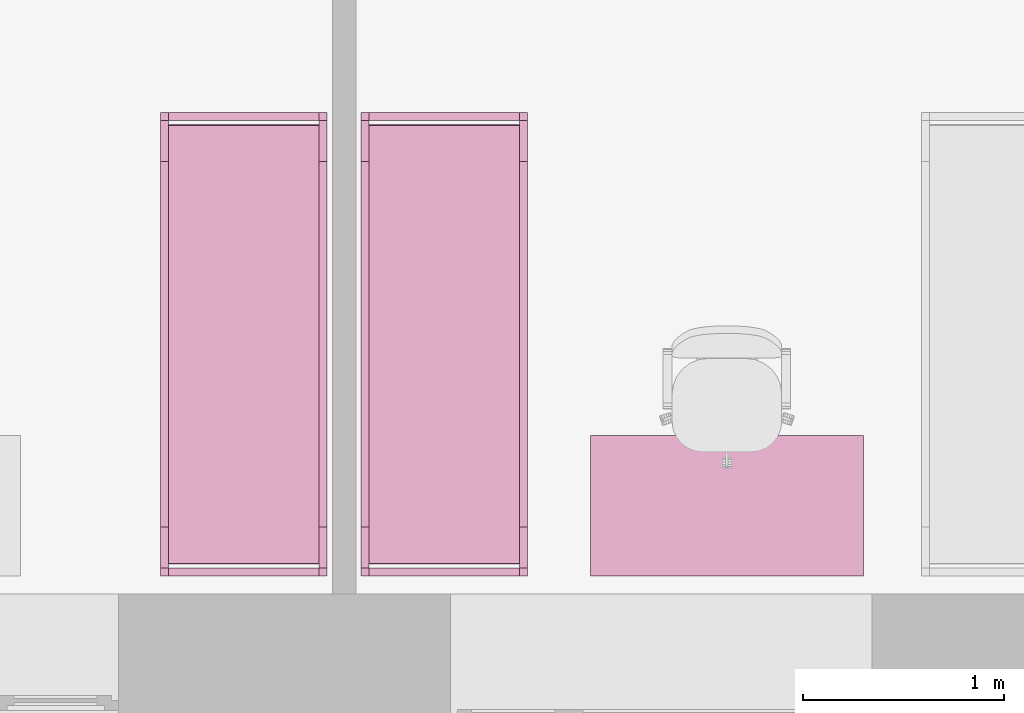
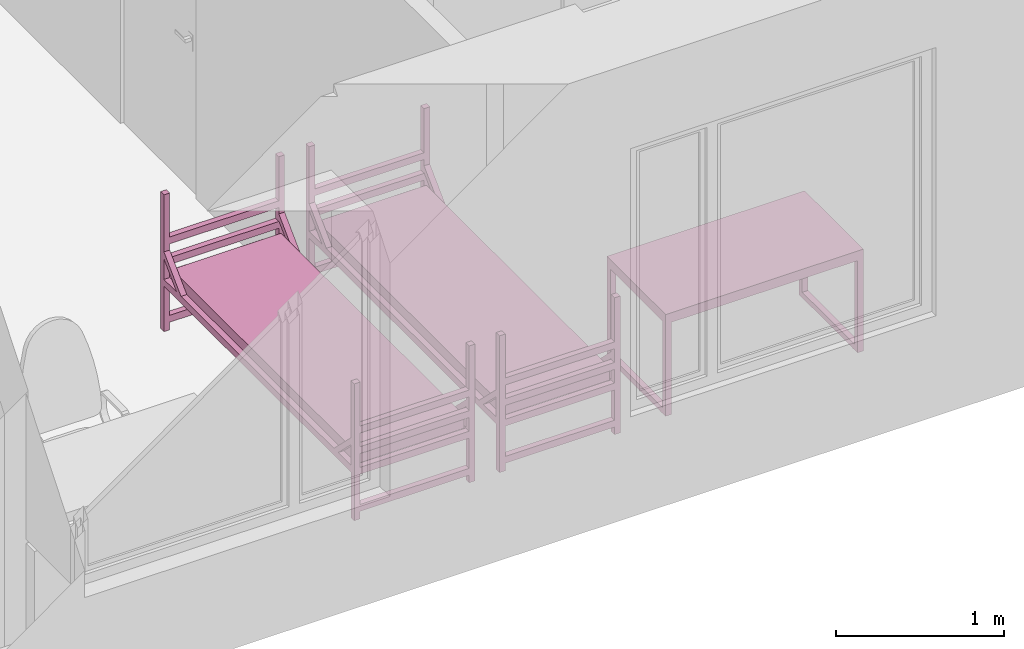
# One storey, part 33 of 48: 3 furnishings.
"""IFC2X3 building model written with IfcOpenShell, lengths in millimetres."""

from ifc_helpers import new_model, entity, si_unit, converted_unit, derived_unit, direction, frame, frame_2d, origin, origin_2d_with_axis, place, context, subcontext, project, spatial, polyline, circle_curve, parameter, trimmed, segment, composite_curve, rectangle, outline, extrude, faceted_brep, source, transform, mapped, material, material_list, type_object, type_shapes, element, save


model = new_model("IFC2X3")

# Units and contexts
model_context = context("Model", 3, precision=0.01, world=origin(), true_north=direction((6.12303176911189e-17, 1.0)))
body_context = subcontext(model_context, "Body", "Model", "MODEL_VIEW")
ifc_project = project(units=[si_unit("LENGTHUNIT", "METRE", prefix="MILLI"), si_unit("AREAUNIT", "SQUARE_METRE"), si_unit("VOLUMEUNIT", "CUBIC_METRE"), converted_unit("PLANEANGLEUNIT", "DEGREE", entity("IfcRatioMeasure", 0.0174532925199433), si_unit("PLANEANGLEUNIT", "RADIAN"), dimensions=[0, 0, 0, 0, 0, 0, 0]), si_unit("MASSUNIT", "GRAM", prefix="KILO"), derived_unit("MASSDENSITYUNIT", [(si_unit("MASSUNIT", "GRAM", prefix="KILO"), 1), (si_unit("LENGTHUNIT", "METRE"), -3)]), si_unit("TIMEUNIT", "SECOND"), si_unit("FREQUENCYUNIT", "HERTZ"), si_unit("THERMODYNAMICTEMPERATUREUNIT", "DEGREE_CELSIUS"), derived_unit("THERMALTRANSMITTANCEUNIT", [(si_unit("MASSUNIT", "GRAM", prefix="KILO"), 1), (si_unit("THERMODYNAMICTEMPERATUREUNIT", "KELVIN"), -1), (si_unit("TIMEUNIT", "SECOND"), -3)]), derived_unit("VOLUMETRICFLOWRATEUNIT", [(si_unit("LENGTHUNIT", "METRE"), 3), (si_unit("TIMEUNIT", "SECOND"), -1)]), si_unit("ELECTRICCURRENTUNIT", "AMPERE"), si_unit("ELECTRICVOLTAGEUNIT", "VOLT"), si_unit("POWERUNIT", "WATT"), si_unit("FORCEUNIT", "NEWTON", prefix="KILO"), si_unit("ILLUMINANCEUNIT", "LUX"), si_unit("LUMINOUSFLUXUNIT", "LUMEN"), si_unit("LUMINOUSINTENSITYUNIT", "CANDELA"), derived_unit("USERDEFINED", [(si_unit("MASSUNIT", "GRAM", prefix="KILO"), -1), (si_unit("LENGTHUNIT", "METRE"), -2), (si_unit("TIMEUNIT", "SECOND"), 3), (si_unit("LUMINOUSFLUXUNIT", "LUMEN"), 1)]), derived_unit("LINEARVELOCITYUNIT", [(si_unit("LENGTHUNIT", "METRE"), 1), (si_unit("TIMEUNIT", "SECOND"), -1)]), si_unit("PRESSUREUNIT", "PASCAL"), derived_unit("USERDEFINED", [(si_unit("LENGTHUNIT", "METRE"), -2), (si_unit("MASSUNIT", "GRAM", prefix="KILO"), 1), (si_unit("TIMEUNIT", "SECOND"), -2)]), derived_unit("LINEARFORCEUNIT", [(si_unit("MASSUNIT", "GRAM", prefix="KILO"), 1), (si_unit("LENGTHUNIT", "METRE"), 1), (si_unit("TIMEUNIT", "SECOND"), -2), (si_unit("LENGTHUNIT", "METRE"), -1)]), derived_unit("PLANARFORCEUNIT", [(si_unit("MASSUNIT", "GRAM", prefix="KILO"), 1), (si_unit("LENGTHUNIT", "METRE"), 1), (si_unit("TIMEUNIT", "SECOND"), -2), (si_unit("LENGTHUNIT", "METRE"), -2)])], contexts=[model_context])

# Site, building, storey, space
site_placement = place(None, origin())
site = spatial("IfcSite", under=ifc_project, at=site_placement, Name="Default", CompositionType="ELEMENT")
building_placement = place(site_placement, origin())
building = spatial("IfcBuilding", under=site, at=building_placement, Name="SMA ARH", CompositionType="ELEMENT")
storey_placement = place(building_placement, frame((0.0, 0.0, 3300.0)))
storey = spatial("IfcBuildingStorey", under=building, at=storey_placement, Name="2 Korrus", CompositionType="ELEMENT", Elevation=3299.99999999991)
space_1_placement = place(storey_placement, origin())
space_1 = spatial("IfcSpace", under=storey, at=space_1_placement, Name="2-9", CompositionType="ELEMENT", InteriorOrExteriorSpace="INTERNAL")

# Furnishing
ifc_material_1 = material(Name="Madrats")
furniture_type_1 = type_object("IfcFurnitureType", Name="Kasarmu voodi ühekordne 2308x830:Kasarmu voodi ühekordne 2308x830", material=ifc_material_1)
shared_shape_1 = source(origin(), body_context, "Body", "SweptSolid", [
    extrude(rectangle(XDim=39.9999999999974, YDim=750.000000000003, at=frame_2d((-1.35003119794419e-13, -2.8421709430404e-14), x_axis=(1.0, 0.0))), frame((1.68638457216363, -1226.7969571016, 55.0), z_axis=(0.0, 0.0, 1.0), x_axis=(0.0, -1.0, 0.0)), (0.0, 0.0, 1.0), 49.9999999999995),
    extrude(rectangle(XDim=39.9999999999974, YDim=750.000000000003, at=frame_2d((-1.35003119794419e-13, -2.8421709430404e-14), x_axis=(1.0, 0.0))), frame((1.68638457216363, -1226.7969571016, 325.0), z_axis=(0.0, 0.0, 1.0), x_axis=(0.0, -1.0, 0.0)), (0.0, 0.0, 1.0), 49.9999999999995),
    extrude(rectangle(XDim=39.9999999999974, YDim=750.000000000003, at=frame_2d((-1.35003119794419e-13, -2.8421709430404e-14), x_axis=(1.0, 0.0))), frame((1.68638457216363, -1226.7969571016, 475.0), z_axis=(0.0, 0.0, 1.0), x_axis=(0.0, -1.0, 0.0)), (0.0, 0.0, 1.0), 49.9999999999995),
    extrude(rectangle(XDim=39.9999999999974, YDim=750.000000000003, at=frame_2d((-1.35003119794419e-13, -2.8421709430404e-14), x_axis=(1.0, 0.0))), frame((1.68638457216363, -1226.7969571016, 625.0), z_axis=(0.0, 0.0, 1.0), x_axis=(0.0, -1.0, 0.0)), (0.0, 0.0, 1.0), 50.0000000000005),
    extrude(rectangle(XDim=39.9999999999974, YDim=750.000000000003, at=frame_2d((1.35003119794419e-13, -2.8421709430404e-14), x_axis=(1.0, 0.0))), frame((1.68638457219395, 1041.2030428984, 55.0), z_axis=(0.0, 0.0, 1.0), x_axis=(0.0, -1.0, 0.0)), (0.0, 0.0, 1.0), 50.0000000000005),
    extrude(rectangle(XDim=39.9999999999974, YDim=750.000000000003, at=frame_2d((1.35003119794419e-13, -2.8421709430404e-14), x_axis=(1.0, 0.0))), frame((1.68638457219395, 1041.2030428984, 325.0), z_axis=(0.0, 0.0, 1.0), x_axis=(0.0, -1.0, 0.0)), (0.0, 0.0, 1.0), 50.0000000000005),
    extrude(rectangle(XDim=39.9999999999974, YDim=750.000000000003, at=frame_2d((1.35003119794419e-13, -2.8421709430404e-14), x_axis=(1.0, 0.0))), frame((1.68638457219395, 1041.2030428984, 475.0), z_axis=(0.0, 0.0, 1.0), x_axis=(0.0, -1.0, 0.0)), (0.0, 0.0, 1.0), 50.0000000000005),
    extrude(rectangle(XDim=39.9999999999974, YDim=750.000000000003, at=frame_2d((1.35003119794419e-13, -2.8421709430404e-14), x_axis=(1.0, 0.0))), frame((1.68638457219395, 1041.2030428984, 625.0), z_axis=(0.0, 0.0, 1.0), x_axis=(0.0, -1.0, 0.0)), (0.0, 0.0, 1.0), 49.9999999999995),
    extrude(outline(composite_curve([segment(trimmed(circle_curve(frame_2d((1085.0, -40.0), x_axis=(1.0, 0.0)), 10.0), [parameter(270.0)], [parameter(0.0)], True, "PARAMETER"), True, "CONTINUOUS"), segment(polyline([(1095.0, -40.0), (1095.0, 40.0)]), True, "CONTINUOUS"), segment(trimmed(circle_curve(frame_2d((1085.0, 40.0), x_axis=(1.0, 0.0)), 10.0), [parameter(0.0)], [parameter(90.0000000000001)], True, "PARAMETER"), True, "CONTINUOUS"), segment(polyline([(1085.0, 50.0), (-1085.0, 50.0)]), True, "CONTINUOUS"), segment(trimmed(circle_curve(frame_2d((-1085.0, 40.0), x_axis=(1.0, 0.0)), 10.0), [parameter(90.0000000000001)], [parameter(180.0)], True, "PARAMETER"), True, "CONTINUOUS"), segment(polyline([(-1095.0, 40.0), (-1095.0, -40.0)]), True, "CONTINUOUS"), segment(trimmed(circle_curve(frame_2d((-1085.0, -40.0), x_axis=(1.0, 0.0)), 10.0), [parameter(180.0)], [parameter(270.0)], True, "PARAMETER"), True, "CONTINUOUS"), segment(polyline([(-1085.0, -50.0), (1085.0, -50.0)]), True, "CONTINUOUS")], self_intersect=False)), frame((-373.313615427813, -92.7969571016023, 405.0), z_axis=(1.0, 0.0, 0.0), x_axis=(0.0, -1.0, 0.0)), (0.0, 0.0, 1.0), 750.000000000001),
    extrude(outline(polyline([(-1114.0, -100.0), (1114.0, -100.0), (1114.0, -50.0), (961.59199141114, -50.0), (1114.0, 100.0), (1114.0, 150.0), (910.789321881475, -50.0), (-910.789321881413, -50.0), (-1114.0, 150.0), (-1114.0, 100.0), (-961.591991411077, -50.0), (-1114.0, -50.0), (-1114.0, -100.0)])), frame((-413.313615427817, -92.7969571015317, 430.0), z_axis=(1.0, 0.0, 0.0), x_axis=(0.0, 1.0, 0.0)), (0.0, 0.0, 1.0), 39.9999999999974),
    extrude(outline(polyline([(-1114.0, -100.0), (1114.0, -100.0), (1114.0, -50.0), (961.591991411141, -50.0), (1114.0, 100.0), (1114.0, 150.0), (910.789321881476, -50.0), (-910.789321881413, -50.0), (-1114.0, 150.0), (-1114.0, 100.0), (-961.591991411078, -50.0), (-1114.0, -50.0), (-1114.0, -100.0)])), frame((376.686384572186, -92.796957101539, 430.0), z_axis=(1.0, 0.0, 0.0), x_axis=(0.0, 1.0, 0.0)), (0.0, 0.0, 1.0), 39.9999999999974),
    extrude(rectangle(XDim=39.9999999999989, YDim=39.9999999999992, at=frame_2d((-6.75015598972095e-14, 0.0), x_axis=(1.0, 0.0))), frame((396.686384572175, -1226.79695710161, 0.0), z_axis=(0.0, 0.0, 1.0), x_axis=(0.0, 1.0, 0.0)), (0.0, 0.0, 1.0), 995.0),
    extrude(rectangle(XDim=39.9999999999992, YDim=39.9999999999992, at=frame_2d((-1.35003119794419e-13, 0.0), x_axis=(1.0, 0.0))), frame((396.686384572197, 1041.20304289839, 0.0), z_axis=(0.0, 0.0, 1.0), x_axis=(0.0, 1.0, 0.0)), (0.0, 0.0, 1.0), 995.0),
    extrude(rectangle(XDim=40.0000000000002, YDim=39.9999999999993, at=frame_2d((-1.35003119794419e-13, 0.0), x_axis=(1.0, 0.0))), frame((-393.313615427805, 1041.2030428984, 0.0), z_axis=(0.0, 0.0, 1.0), x_axis=(0.0, 1.0, 0.0)), (0.0, 0.0, 1.0), 995.0),
    extrude(rectangle(XDim=39.9999999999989, YDim=39.9999999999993, at=frame_2d((-6.75015598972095e-14, 0.0), x_axis=(1.0, 0.0))), frame((-393.313615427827, -1226.7969571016, 0.0), z_axis=(0.0, 0.0, 1.0), x_axis=(0.0, 1.0, 0.0)), (0.0, 0.0, 1.0), 995.0),
])
type_shapes(furniture_type_1, [shared_shape_1])
furnishing_1_placement = place(space_1_placement, frame((19032.1863845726, 1151.20304289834, 0.0), z_axis=(0.0, 0.0, 1.0), x_axis=(-1.0, 0.0, 0.0)))
element("IfcFurnishingElement", 1, at=furnishing_1_placement, inside=space_1, type_object=furniture_type_1, material=ifc_material_1, Name="Kasarmu voodi ühekordne 2308x830:Kasarmu voodi ühekordne 2308x830", ObjectType="Kasarmu voodi ühekordne 2308x830:Kasarmu voodi ühekordne 2308x830", context=body_context, shape_type="MappedRepresentation", body=[
    mapped(shared_shape_1, transform((0.0, 0.0, 0.0), scale=1.0)),
])

# Space
space_2_placement = place(storey_placement, origin())
space_2 = spatial("IfcSpace", under=storey, at=space_2_placement, Name="2-8", CompositionType="ELEMENT", InteriorOrExteriorSpace="INTERNAL")

# Furnishings
ifc_material_2 = material(Name="<Unnamed>")
ifc_material_list = material_list([ifc_material_2, ifc_material_2])
furniture_type_2 = type_object("IfcFurnitureType", Name="kirjutuslaud 1360x700mm:kirjutuslaud 1360x700mm", material=ifc_material_list)
shared_shape_2 = source(origin(), body_context, "Body", "Brep", [
    faceted_brep([(680.0, -350.0, 720.0), (680.0, 350.0, 720.0), (680.0, 350.0, 750.0), (680.0, -350.0, 750.0), (-680.0, -350.0, 720.0), (-680.0, -350.0, 750.0), (-680.0, 350.0, 750.0), (-680.0, 350.0, 720.0)], [[[0, 1, 2, 3]], [[4, 5, 6, 7]], [[1, 0, 4, 7]], [[2, 1, 7, 6]], [[3, 2, 6, 5]], [[0, 3, 5, 4]]]),
    faceted_brep([(-640.0, -310.0, 680.0), (-640.0, 310.0, 680.0), (-640.0, 310.0, 720.0), (-640.0, -310.0, 720.0), (-680.0, -350.0, 720.0), (-680.0, 350.0, 720.0), (-680.0, 350.0, 10.0), (-680.0, -350.0, 10.0), (-680.0, 310.0, 680.0), (-680.0, -310.0, 680.0), (-680.0, -310.0, 50.0), (-680.0, 310.0, 50.0), (-640.0, -350.0, 10.0), (-640.0, -350.0, 680.0), (640.0, -350.0, 680.0), (640.0, -350.0, 10.0), (680.0, -350.0, 10.0), (680.0, -350.0, 720.0), (-640.0, 350.0, 10.0), (680.0, 350.0, 720.0), (680.0, 350.0, 10.0), (640.0, 350.0, 10.0), (640.0, 350.0, 680.0), (-640.0, 350.0, 680.0), (640.0, 310.0, 720.0), (640.0, -310.0, 720.0), (-640.0, 310.0, 50.0), (-640.0, -310.0, 50.0), (640.0, -310.0, 680.0), (640.0, 310.0, 680.0), (680.0, 310.0, 680.0), (680.0, 310.0, 50.0), (680.0, -310.0, 50.0), (680.0, -310.0, 680.0), (640.0, -310.0, 50.0), (640.0, 310.0, 50.0)], [[[0, 1, 2, 3]], [[4, 5, 6, 7], [8, 9, 10, 11]], [[4, 7, 12, 13, 14, 15, 16, 17]], [[18, 12, 7, 6]], [[6, 5, 19, 20, 21, 22, 23, 18]], [[19, 5, 4, 17], [2, 24, 25, 3]], [[26, 1, 8, 11]], [[27, 26, 11, 10]], [[0, 27, 10, 9]], [[1, 0, 9, 8]], [[14, 13, 0, 28]], [[24, 2, 1, 29]], [[3, 25, 28, 0]], [[17, 16, 20, 19], [30, 31, 32, 33]], [[21, 15, 14, 28, 34, 35, 29, 22]], [[20, 16, 15, 21]], [[31, 30, 29, 35]], [[32, 31, 35, 34]], [[33, 32, 34, 28]], [[30, 33, 28, 29]], [[29, 28, 25, 24]], [[29, 1, 23, 22]], [[12, 18, 23, 1, 26, 27, 0, 13]]]),
    faceted_brep([(-663.729456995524, -270.466136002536, 0.0), (-659.847171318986, -269.955023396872, 0.0), (-655.964885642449, -270.466136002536, 0.0), (-652.347171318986, -271.964642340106, 0.0), (-649.240569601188, -274.348421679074, 0.0), (-646.85679026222, -277.455023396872, 0.0), (-645.35828392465, -281.072737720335, 0.0), (-644.847171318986, -284.955023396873, 0.0), (-645.35828392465, -288.83730907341, 0.0), (-646.85679026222, -292.455023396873, 0.0), (-649.240569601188, -295.561625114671, 0.0), (-652.347171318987, -297.945404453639, 0.0), (-655.964885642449, -299.443910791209, 0.0), (-659.847171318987, -299.955023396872, 0.0), (-663.729456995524, -299.443910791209, 0.0), (-667.347171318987, -297.945404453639, 0.0), (-670.453773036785, -295.561625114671, 0.0), (-672.837552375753, -292.455023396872, 0.0), (-674.336058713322, -288.83730907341, 0.0), (-674.847171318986, -284.955023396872, 0.0), (-674.336058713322, -281.072737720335, 0.0), (-672.837552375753, -277.455023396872, 0.0), (-670.453773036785, -274.348421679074, 0.0), (-667.347171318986, -271.964642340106, 0.0), (-655.964885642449, -299.443910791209, 10.0), (-652.347171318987, -297.945404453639, 10.0), (-649.240569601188, -295.561625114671, 10.0), (-646.85679026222, -292.455023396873, 10.0), (-645.35828392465, -288.83730907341, 10.0), (-644.847171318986, -284.955023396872, 10.0), (-645.35828392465, -281.072737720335, 10.0), (-646.85679026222, -277.455023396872, 10.0), (-649.240569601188, -274.348421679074, 10.0), (-652.347171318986, -271.964642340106, 10.0), (-655.964885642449, -270.466136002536, 10.0), (-659.847171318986, -269.955023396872, 10.0), (-663.729456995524, -270.466136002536, 10.0), (-667.347171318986, -271.964642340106, 10.0), (-670.453773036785, -274.348421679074, 10.0), (-672.837552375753, -277.455023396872, 10.0), (-674.336058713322, -281.072737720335, 10.0), (-674.847171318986, -284.955023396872, 10.0), (-674.336058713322, -288.83730907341, 10.0), (-672.837552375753, -292.455023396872, 10.0), (-670.453773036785, -295.561625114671, 10.0), (-667.347171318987, -297.945404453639, 10.0), (-663.729456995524, -299.443910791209, 10.0), (-659.847171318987, -299.955023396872, 10.0)], [[[0, 1, 2, 3, 4, 5, 6, 7, 8, 9, 10, 11, 12, 13, 14, 15, 16, 17, 18, 19, 20, 21, 22, 23]], [[24, 25, 26, 27, 28, 29, 30, 31, 32, 33, 34, 35, 36, 37, 38, 39, 40, 41, 42, 43, 44, 45, 46, 47]], [[18, 42, 41, 19]], [[17, 43, 42, 18]], [[45, 44, 16, 15]], [[17, 16, 44, 43]], [[46, 45, 15, 14]], [[47, 46, 14, 13]], [[12, 24, 47, 13]], [[11, 25, 24, 12]], [[27, 26, 10, 9]], [[11, 10, 26, 25]], [[28, 27, 9, 8]], [[29, 28, 8, 7]], [[6, 30, 29, 7]], [[5, 31, 30, 6]], [[33, 32, 4, 3]], [[5, 4, 32, 31]], [[34, 33, 3, 2]], [[35, 34, 2, 1]], [[0, 36, 35, 1]], [[23, 37, 36, 0]], [[39, 38, 22, 21]], [[23, 22, 38, 37]], [[40, 39, 21, 20]], [[41, 40, 20, 19]]]),
    faceted_brep([(-655.964885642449, 270.466136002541, 10.0), (-652.347171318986, 271.964642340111, 10.0), (-649.240569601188, 274.348421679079, 10.0), (-646.85679026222, 277.455023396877, 10.0), (-645.35828392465, 281.07273772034, 10.0), (-644.847171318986, 284.955023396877, 10.0), (-645.35828392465, 288.837309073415, 10.0), (-646.85679026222, 292.455023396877, 10.0), (-649.240569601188, 295.561625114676, 10.0), (-652.347171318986, 297.945404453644, 10.0), (-655.964885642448, 299.443910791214, 10.0), (-659.847171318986, 299.955023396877, 10.0), (-663.729456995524, 299.443910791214, 10.0), (-667.347171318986, 297.945404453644, 10.0), (-670.453773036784, 295.561625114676, 10.0), (-672.837552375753, 292.455023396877, 10.0), (-674.336058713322, 288.837309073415, 10.0), (-674.847171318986, 284.955023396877, 10.0), (-674.336058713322, 281.07273772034, 10.0), (-672.837552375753, 277.455023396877, 10.0), (-670.453773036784, 274.348421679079, 10.0), (-667.347171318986, 271.964642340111, 10.0), (-663.729456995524, 270.466136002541, 10.0), (-659.847171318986, 269.955023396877, 10.0), (-655.964885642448, 299.443910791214, 0.0), (-652.347171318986, 297.945404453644, 0.0), (-649.240569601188, 295.561625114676, 0.0), (-646.85679026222, 292.455023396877, 0.0), (-645.35828392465, 288.837309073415, 0.0), (-644.847171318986, 284.955023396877, 0.0), (-645.35828392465, 281.07273772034, 0.0), (-646.85679026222, 277.455023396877, 0.0), (-649.240569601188, 274.348421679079, 0.0), (-652.347171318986, 271.964642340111, 0.0), (-655.964885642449, 270.466136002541, 0.0), (-659.847171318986, 269.955023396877, 0.0), (-663.729456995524, 270.466136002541, 0.0), (-667.347171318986, 271.964642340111, 0.0), (-670.453773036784, 274.348421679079, 0.0), (-672.837552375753, 277.455023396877, 0.0), (-674.336058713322, 281.07273772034, 0.0), (-674.847171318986, 284.955023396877, 0.0), (-674.336058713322, 288.837309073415, 0.0), (-672.837552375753, 292.455023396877, 0.0), (-670.453773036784, 295.561625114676, 0.0), (-667.347171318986, 297.945404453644, 0.0), (-663.729456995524, 299.443910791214, 0.0), (-659.847171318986, 299.955023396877, 0.0)], [[[0, 1, 2, 3, 4, 5, 6, 7, 8, 9, 10, 11, 12, 13, 14, 15, 16, 17, 18, 19, 20, 21, 22, 23]], [[24, 25, 26, 27, 28, 29, 30, 31, 32, 33, 34, 35, 36, 37, 38, 39, 40, 41, 42, 43, 44, 45, 46, 47]], [[40, 18, 17, 41]], [[39, 19, 18, 40]], [[21, 20, 38, 37]], [[39, 38, 20, 19]], [[22, 21, 37, 36]], [[23, 22, 36, 35]], [[34, 0, 23, 35]], [[33, 1, 0, 34]], [[3, 2, 32, 31]], [[33, 32, 2, 1]], [[4, 3, 31, 30]], [[5, 4, 30, 29]], [[28, 6, 5, 29]], [[27, 7, 6, 28]], [[9, 8, 26, 25]], [[27, 26, 8, 7]], [[10, 9, 25, 24]], [[11, 10, 24, 47]], [[46, 12, 11, 47]], [[45, 13, 12, 46]], [[15, 14, 44, 43]], [[45, 44, 14, 13]], [[16, 15, 43, 42]], [[17, 16, 42, 41]]]),
    faceted_brep([(656.270543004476, -270.466136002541, 0.0), (660.152828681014, -269.955023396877, 0.0), (664.035114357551, -270.466136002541, 0.0), (667.652828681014, -271.96464234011, 0.0), (670.759430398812, -274.348421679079, 0.0), (673.14320973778, -277.455023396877, 0.0), (674.64171607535, -281.072737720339, 0.0), (675.152828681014, -284.955023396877, 0.0), (674.64171607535, -288.837309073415, 0.0), (673.14320973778, -292.455023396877, 0.0), (670.759430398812, -295.561625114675, 0.0), (667.652828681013, -297.945404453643, 0.0), (664.035114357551, -299.443910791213, 0.0), (660.152828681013, -299.955023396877, 0.0), (656.270543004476, -299.443910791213, 0.0), (652.652828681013, -297.945404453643, 0.0), (649.546226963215, -295.561625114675, 0.0), (647.162447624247, -292.455023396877, 0.0), (645.663941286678, -288.837309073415, 0.0), (645.152828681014, -284.955023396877, 0.0), (645.663941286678, -281.072737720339, 0.0), (647.162447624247, -277.455023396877, 0.0), (649.546226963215, -274.348421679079, 0.0), (652.652828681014, -271.96464234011, 0.0), (664.035114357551, -299.443910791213, 10.0), (667.652828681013, -297.945404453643, 10.0), (670.759430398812, -295.561625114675, 10.0), (673.14320973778, -292.455023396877, 10.0), (674.64171607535, -288.837309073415, 10.0), (675.152828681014, -284.955023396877, 10.0), (674.64171607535, -281.072737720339, 10.0), (673.14320973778, -277.455023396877, 10.0), (670.759430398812, -274.348421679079, 10.0), (667.652828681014, -271.96464234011, 10.0), (664.035114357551, -270.466136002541, 10.0), (660.152828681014, -269.955023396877, 10.0), (656.270543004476, -270.466136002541, 10.0), (652.652828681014, -271.96464234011, 10.0), (649.546226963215, -274.348421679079, 10.0), (647.162447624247, -277.455023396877, 10.0), (645.663941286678, -281.072737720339, 10.0), (645.152828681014, -284.955023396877, 10.0), (645.663941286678, -288.837309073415, 10.0), (647.162447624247, -292.455023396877, 10.0), (649.546226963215, -295.561625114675, 10.0), (652.652828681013, -297.945404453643, 10.0), (656.270543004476, -299.443910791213, 10.0), (660.152828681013, -299.955023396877, 10.0)], [[[0, 1, 2, 3, 4, 5, 6, 7, 8, 9, 10, 11, 12, 13, 14, 15, 16, 17, 18, 19, 20, 21, 22, 23]], [[24, 25, 26, 27, 28, 29, 30, 31, 32, 33, 34, 35, 36, 37, 38, 39, 40, 41, 42, 43, 44, 45, 46, 47]], [[18, 42, 41, 19]], [[17, 43, 42, 18]], [[45, 44, 16, 15]], [[17, 16, 44, 43]], [[46, 45, 15, 14]], [[47, 46, 14, 13]], [[12, 24, 47, 13]], [[11, 25, 24, 12]], [[27, 26, 10, 9]], [[11, 10, 26, 25]], [[28, 27, 9, 8]], [[29, 28, 8, 7]], [[6, 30, 29, 7]], [[5, 31, 30, 6]], [[33, 32, 4, 3]], [[5, 4, 32, 31]], [[34, 33, 3, 2]], [[35, 34, 2, 1]], [[0, 36, 35, 1]], [[23, 37, 36, 0]], [[39, 38, 22, 21]], [[23, 22, 38, 37]], [[40, 39, 21, 20]], [[41, 40, 20, 19]]]),
    faceted_brep([(664.035114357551, 270.466136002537, 10.0), (667.652828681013, 271.964642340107, 10.0), (670.759430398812, 274.348421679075, 10.0), (673.14320973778, 277.455023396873, 10.0), (674.64171607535, 281.072737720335, 10.0), (675.152828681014, 284.955023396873, 10.0), (674.64171607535, 288.837309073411, 10.0), (673.14320973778, 292.455023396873, 10.0), (670.759430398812, 295.561625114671, 10.0), (667.652828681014, 297.94540445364, 10.0), (664.035114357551, 299.443910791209, 10.0), (660.152828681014, 299.955023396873, 10.0), (656.270543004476, 299.443910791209, 10.0), (652.652828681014, 297.94540445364, 10.0), (649.546226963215, 295.561625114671, 10.0), (647.162447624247, 292.455023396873, 10.0), (645.663941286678, 288.837309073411, 10.0), (645.152828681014, 284.955023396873, 10.0), (645.663941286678, 281.072737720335, 10.0), (647.162447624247, 277.455023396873, 10.0), (649.546226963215, 274.348421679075, 10.0), (652.652828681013, 271.964642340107, 10.0), (656.270543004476, 270.466136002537, 10.0), (660.152828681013, 269.955023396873, 10.0), (664.035114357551, 299.443910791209, 0.0), (667.652828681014, 297.94540445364, 0.0), (670.759430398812, 295.561625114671, 0.0), (673.14320973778, 292.455023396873, 0.0), (674.64171607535, 288.837309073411, 0.0), (675.152828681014, 284.955023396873, 0.0), (674.64171607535, 281.072737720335, 0.0), (673.14320973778, 277.455023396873, 0.0), (670.759430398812, 274.348421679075, 0.0), (667.652828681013, 271.964642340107, 0.0), (664.035114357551, 270.466136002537, 0.0), (660.152828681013, 269.955023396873, 0.0), (656.270543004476, 270.466136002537, 0.0), (652.652828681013, 271.964642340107, 0.0), (649.546226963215, 274.348421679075, 0.0), (647.162447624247, 277.455023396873, 0.0), (645.663941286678, 281.072737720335, 0.0), (645.152828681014, 284.955023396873, 0.0), (645.663941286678, 288.837309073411, 0.0), (647.162447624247, 292.455023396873, 0.0), (649.546226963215, 295.561625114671, 0.0), (652.652828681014, 297.94540445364, 0.0), (656.270543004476, 299.443910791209, 0.0), (660.152828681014, 299.955023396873, 0.0)], [[[0, 1, 2, 3, 4, 5, 6, 7, 8, 9, 10, 11, 12, 13, 14, 15, 16, 17, 18, 19, 20, 21, 22, 23]], [[24, 25, 26, 27, 28, 29, 30, 31, 32, 33, 34, 35, 36, 37, 38, 39, 40, 41, 42, 43, 44, 45, 46, 47]], [[40, 18, 17, 41]], [[39, 19, 18, 40]], [[21, 20, 38, 37]], [[39, 38, 20, 19]], [[22, 21, 37, 36]], [[23, 22, 36, 35]], [[34, 0, 23, 35]], [[33, 1, 0, 34]], [[3, 2, 32, 31]], [[33, 32, 2, 1]], [[4, 3, 31, 30]], [[5, 4, 30, 29]], [[28, 6, 5, 29]], [[27, 7, 6, 28]], [[9, 8, 26, 25]], [[27, 26, 8, 7]], [[10, 9, 25, 24]], [[11, 10, 24, 47]], [[46, 12, 11, 47]], [[45, 13, 12, 46]], [[15, 14, 44, 43]], [[45, 44, 14, 13]], [[16, 15, 43, 42]], [[17, 16, 42, 41]]]),
])
type_shapes(furniture_type_2, [shared_shape_2])
furnishing_2_placement = place(space_2_placement, frame((21437.0, 440.0, 0.0)))
element("IfcFurnishingElement", 2, at=furnishing_2_placement, inside=space_2, type_object=furniture_type_2, Name="kirjutuslaud 1360x700mm:kirjutuslaud 1360x700mm", ObjectType="kirjutuslaud 1360x700mm:kirjutuslaud 1360x700mm", context=body_context, shape_type="MappedRepresentation", body=[
    mapped(shared_shape_2, transform((0.0, 0.0, 0.0), scale=1.0)),
])
furniture_type_3 = type_object("IfcFurnitureType", Name="Kasarmu voodi ühekordne 2308x830:Kasarmu voodi ühekordne 2308x830", material=ifc_material_1)
shared_shape_3 = source(origin(), body_context, "Body", "SweptSolid", [
    extrude(rectangle(XDim=750.000000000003, YDim=39.9999999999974, at=frame_2d((0.0, 1.35003119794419e-13), x_axis=(1.0, 0.0))), frame((1.68638457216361, 1226.7969571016, 55.0)), (0.0, 0.0, 1.0), 49.9999999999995),
    extrude(rectangle(XDim=750.000000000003, YDim=39.9999999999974, at=frame_2d((0.0, 1.35003119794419e-13), x_axis=(1.0, 0.0))), frame((1.68638457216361, 1226.7969571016, 325.0)), (0.0, 0.0, 1.0), 49.9999999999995),
    extrude(rectangle(XDim=750.000000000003, YDim=39.9999999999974, at=frame_2d((0.0, 1.35003119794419e-13), x_axis=(1.0, 0.0))), frame((1.68638457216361, 1226.7969571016, 475.0)), (0.0, 0.0, 1.0), 49.9999999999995),
    extrude(rectangle(XDim=750.000000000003, YDim=39.9999999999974, at=frame_2d((0.0, 1.35003119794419e-13), x_axis=(1.0, 0.0))), frame((1.68638457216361, 1226.7969571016, 625.0)), (0.0, 0.0, 1.0), 50.0000000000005),
    extrude(rectangle(XDim=750.000000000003, YDim=39.9999999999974, at=origin_2d_with_axis()), frame((1.68638457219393, -1041.2030428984, 55.0)), (0.0, 0.0, 1.0), 50.0000000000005),
    extrude(rectangle(XDim=750.000000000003, YDim=39.9999999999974, at=origin_2d_with_axis()), frame((1.68638457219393, -1041.2030428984, 325.0)), (0.0, 0.0, 1.0), 50.0000000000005),
    extrude(rectangle(XDim=750.000000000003, YDim=39.9999999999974, at=origin_2d_with_axis()), frame((1.68638457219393, -1041.2030428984, 475.0)), (0.0, 0.0, 1.0), 50.0000000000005),
    extrude(rectangle(XDim=750.000000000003, YDim=39.9999999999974, at=origin_2d_with_axis()), frame((1.68638457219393, -1041.2030428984, 625.0)), (0.0, 0.0, 1.0), 49.9999999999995),
    extrude(outline(composite_curve([segment(polyline([(-1085.0, -50.0), (1085.0, -50.0)]), True, "CONTINUOUS"), segment(trimmed(circle_curve(frame_2d((1085.0, -40.0), x_axis=(-1.0, 0.0)), 10.0), [parameter(90.0000000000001)], [parameter(180.0)], True, "PARAMETER"), True, "CONTINUOUS"), segment(polyline([(1095.0, -40.0), (1095.0, 40.0)]), True, "CONTINUOUS"), segment(trimmed(circle_curve(frame_2d((1085.0, 40.0), x_axis=(-1.0, 0.0)), 10.0), [parameter(180.0)], [parameter(270.0)], True, "PARAMETER"), True, "CONTINUOUS"), segment(polyline([(1085.0, 50.0), (-1085.0, 50.0)]), True, "CONTINUOUS"), segment(trimmed(circle_curve(frame_2d((-1085.0, 40.0), x_axis=(-1.0, 0.0)), 10.0), [parameter(270.0)], [parameter(0.0)], True, "PARAMETER"), True, "CONTINUOUS"), segment(polyline([(-1095.0, 40.0), (-1095.0, -40.0)]), True, "CONTINUOUS"), segment(trimmed(circle_curve(frame_2d((-1085.0, -40.0), x_axis=(-1.0, 0.0)), 10.0), [parameter(0.0)], [parameter(90.0000000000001)], True, "PARAMETER"), True, "CONTINUOUS")], self_intersect=False)), frame((-373.313615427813, 92.7969571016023, 405.0), z_axis=(1.0, 0.0, 0.0), x_axis=(0.0, -1.0, 0.0)), (0.0, 0.0, 1.0), 750.000000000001),
    extrude(outline(polyline([(-100.0, -1114.0), (-50.0, -1114.0), (-50.0, -961.591991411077), (100.0, -1114.0), (150.0, -1114.0), (-50.0, -910.789321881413), (-50.0, 910.789321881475), (150.0, 1114.0), (100.0, 1114.0), (-50.0, 961.591991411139), (-50.0, 1114.0), (-100.0, 1114.0), (-100.0, -1114.0)])), frame((-413.313615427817, 92.7969571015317, 430.0), z_axis=(1.0, 0.0, 0.0), x_axis=(0.0, 0.0, 1.0)), (0.0, 0.0, 1.0), 39.9999999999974),
    extrude(outline(polyline([(-100.0, -1114.0), (-50.0, -1114.0), (-50.0, -961.591991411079), (100.0, -1114.0), (150.0, -1114.0), (-50.0, -910.789321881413), (-50.0, 910.789321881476), (150.0, 1114.0), (100.0, 1114.0), (-50.0, 961.591991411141), (-50.0, 1114.0), (-100.0, 1114.0), (-100.0, -1114.0)])), frame((376.686384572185, 92.796957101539, 430.0), z_axis=(1.0, 0.0, 0.0), x_axis=(0.0, 0.0, 1.0)), (0.0, 0.0, 1.0), 39.9999999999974),
    extrude(rectangle(XDim=39.9999999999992, YDim=39.9999999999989, at=frame_2d((0.0, -6.75015598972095e-14), x_axis=(1.0, 0.0))), frame((396.686384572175, 1226.79695710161, 0.0), z_axis=(0.0, 0.0, 1.0), x_axis=(-1.0, 0.0, 0.0)), (0.0, 0.0, 1.0), 995.0),
    extrude(rectangle(XDim=39.9999999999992, YDim=39.9999999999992, at=origin_2d_with_axis()), frame((396.686384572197, -1041.20304289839, 0.0), z_axis=(0.0, 0.0, 1.0), x_axis=(-1.0, 0.0, 0.0)), (0.0, 0.0, 1.0), 995.0),
    extrude(rectangle(XDim=39.9999999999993, YDim=40.0000000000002, at=origin_2d_with_axis()), frame((-393.313615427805, -1041.2030428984, 0.0), z_axis=(0.0, 0.0, 1.0), x_axis=(-1.0, 0.0, 0.0)), (0.0, 0.0, 1.0), 995.0),
    extrude(rectangle(XDim=39.9999999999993, YDim=39.9999999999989, at=frame_2d((0.0, -6.75015598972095e-14), x_axis=(1.0, 0.0))), frame((-393.313615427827, 1226.7969571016, 0.0), z_axis=(0.0, 0.0, 1.0), x_axis=(-1.0, 0.0, 0.0)), (0.0, 0.0, 1.0), 995.0),
])
type_shapes(furniture_type_3, [shared_shape_3])
furnishing_3_placement = place(space_2_placement, frame((20031.1863845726, 1336.79695710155, 0.0), z_axis=(0.0, 0.0, 1.0), x_axis=(-1.0, 0.0, 0.0)))
element("IfcFurnishingElement", 3, at=furnishing_3_placement, inside=space_2, type_object=furniture_type_3, material=ifc_material_1, Name="Kasarmu voodi ühekordne 2308x830:Kasarmu voodi ühekordne 2308x830", ObjectType="Kasarmu voodi ühekordne 2308x830:Kasarmu voodi ühekordne 2308x830", context=body_context, shape_type="MappedRepresentation", body=[
    mapped(shared_shape_3, transform((0.0, 0.0, 0.0), scale=1.0)),
])

save(model, "model.ifc")
